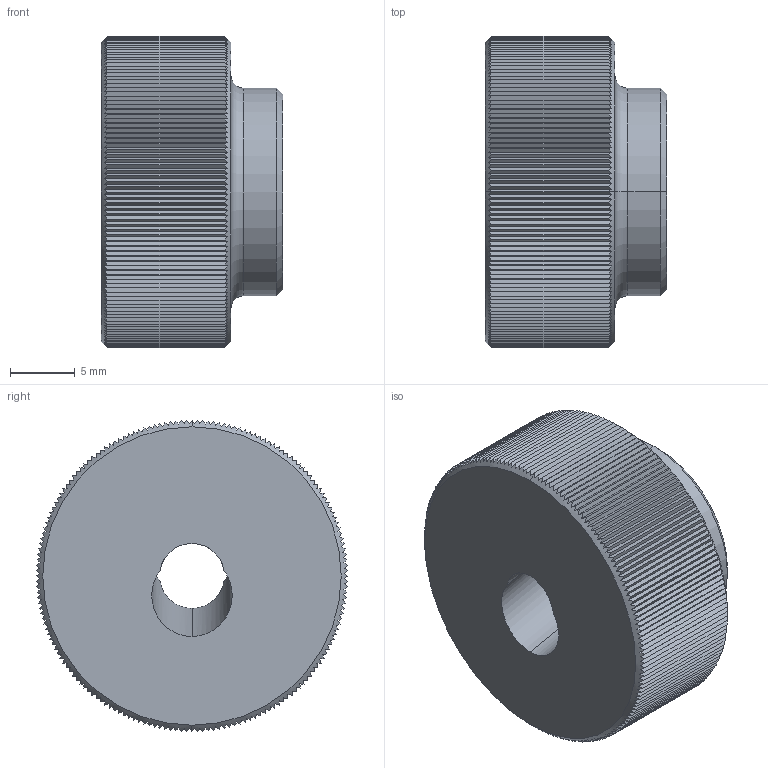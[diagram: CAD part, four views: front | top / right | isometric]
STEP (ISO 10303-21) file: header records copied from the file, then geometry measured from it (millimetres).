
FILE_DESCRIPTION (( 'STEP AP203' ), '1' );
FILE_NAME ('3736.W006.step', '2009-12-09T21:49:44', ( 'Wixroyd' ), ( 'Wixroyd' ), 'SwSTEP 2.0', 'SolidWorks 2009', '' );
FILE_SCHEMA (( 'CONFIG_CONTROL_DESIGN' ));
Length unit declared in the file: millimetre
Products named in the file (1): 3736.W006
Bounding box: 14 x 24 x 24 mm (x, y, z)
Volume: 4784.9 mm3; surface area: 2364.3 mm2
Topology: 1 solids, 1 shells, 378 faces, 1116 edges, 741 vertices
Faces by surface type: plane 363, cylinder 7, cone 6, torus 2
Entity records: 13202 total; most frequent: CARTESIAN_POINT 4472, ORIENTED_EDGE 2232, DIRECTION 1163, EDGE_CURVE 1116, VERTEX_POINT 741, B_SPLINE_CURVE_WITH_KNOTS 724, AXIS2_PLACEMENT_3D 396, EDGE_LOOP 381
